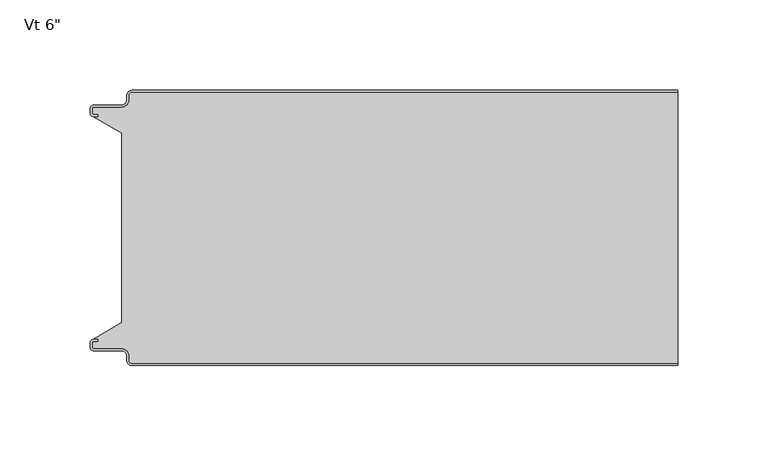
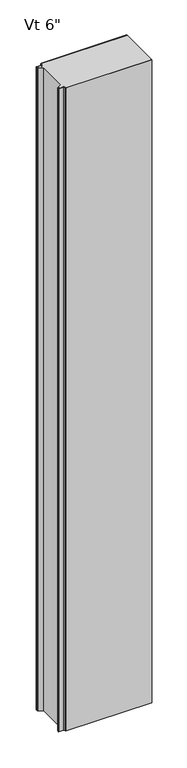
"""IFC4 building model written with IfcOpenShell, lengths in millimetres: plate geometry."""

import ifcopenshell
import ifcopenshell.guid

model = None  # the IFC model being written
_history = None  # IfcOwnerHistory: only IFC2X3 demands one
_inside = {}  # id of a spatial element -> (the spatial element, [elements in it])
_under = {}  # id of a project, library or spatial element -> (it, [spatial elements below it])
_declared = {}  # id of a project -> (the project, [libraries it declares])
_typed = {}  # id of a type object -> (the type object, [elements of that type])
_made_of = {}  # id of a material, layer set ... -> (it, [elements and type objects made of it])


def new_model(schema):
    """Start an empty IFC model of exactly this schema.

    Asked for "IFC4X3", IfcOpenShell would pick the latest addendum, in which some entities
    have other attributes; the version numbers below select the first issue.
    IFC2X3 requires an IfcOwnerHistory on every rooted entity: one is made here for all.
    """
    global model, _history
    if schema == "IFC4X3":
        model = ifcopenshell.file(schema_version=(4, 3, 0, 0))
    else:
        model = ifcopenshell.file(schema=schema)
    _inside.clear()
    _under.clear()
    _declared.clear()
    _typed.clear()
    _made_of.clear()
    _history = None
    if model.schema == "IFC2X3":
        org = make("IfcOrganization", Name="unknown")
        user = make(
            "IfcPersonAndOrganization",
            ThePerson=make("IfcPerson", FamilyName="unknown"),
            TheOrganization=org,
        )
        app = make(
            "IfcApplication",
            ApplicationDeveloper=org,
            Version="unknown",
            ApplicationFullName="unknown",
            ApplicationIdentifier="unknown",
        )
        _history = make(
            "IfcOwnerHistory",
            OwningUser=user,
            OwningApplication=app,
            ChangeAction="ADDED",
            CreationDate=0,
        )
    return model


def make(cls, **values):
    """One entity of the class cls with the attributes given. An attribute that is None is left unset."""
    return model.create_entity(
        cls, **{name: value for name, value in values.items() if value is not None}
    )


def rooted(cls, **values):
    """An entity with a GlobalId (a new one), such as an element, a storey or a relation."""
    return make(cls, GlobalId=ifcopenshell.guid.new(), OwnerHistory=_history, **values)


def si_unit(unit_type, name, prefix=None):
    """IfcSIUnit, for example si_unit("LENGTHUNIT", "METRE", prefix="MILLI")."""
    return make("IfcSIUnit", UnitType=unit_type, Prefix=prefix, Name=name)


def assignment(units):
    """IfcUnitAssignment: the units of a project."""
    return None if units is None else make("IfcUnitAssignment", Units=units)


def point(xyz):
    """IfcCartesianPoint."""
    return None if xyz is None else make("IfcCartesianPoint", Coordinates=xyz)


def direction(xyz):
    """IfcDirection."""
    return None if xyz is None else make("IfcDirection", DirectionRatios=xyz)


def frame(location, z_axis=None, x_axis=None):
    """IfcAxis2Placement3D, a coordinate frame: its origin and axes. An axis left out is left unset."""
    return make(
        "IfcAxis2Placement3D",
        Location=point(location),
        Axis=direction(z_axis),
        RefDirection=direction(x_axis),
    )


def origin():
    """The frame at (0, 0, 0) with its axes left unset."""
    return frame((0.0, 0.0, 0.0))


def place(relative_to, where):
    """IfcLocalPlacement: puts the frame where relative to a parent placement (None: the world)."""
    return make(
        "IfcLocalPlacement", PlacementRelTo=relative_to, RelativePlacement=where
    )


def context(
    kind, dimensions, precision=None, world=None, true_north=None, identifier=None
):
    """IfcGeometricRepresentationContext, for example the 3D "Model" context."""
    return make(
        "IfcGeometricRepresentationContext",
        ContextIdentifier=identifier,
        ContextType=kind,
        CoordinateSpaceDimension=dimensions,
        Precision=precision,
        WorldCoordinateSystem=world,
        TrueNorth=true_north,
    )


def project(units=None, contexts=None):
    """IfcProject with its units and contexts."""
    return rooted(
        "IfcProject",
        Name="project",
        RepresentationContexts=contexts,
        UnitsInContext=assignment(units),
    )


def spatial(cls, under=None, at=None, **own):
    """A site, building, storey or space (cls), placed at a placement, below another one or the project."""
    s = rooted(cls, ObjectPlacement=at, **own)
    if under is not None:
        _under.setdefault(under.id(), (under, []))[1].append(s)
    return s


def polyline(points):
    """IfcPolyline through the points."""
    return make("IfcPolyline", Points=[point(p) for p in points])


def circle_curve(where, radius):
    """IfcCircle in the frame where."""
    return make("IfcCircle", Position=where, Radius=radius)


def shape(context_of_items, identifier, shape_type, items):
    """IfcShapeRepresentation: the items that make up one representation, for example the "Body"."""
    return make(
        "IfcShapeRepresentation",
        ContextOfItems=context_of_items,
        RepresentationIdentifier=identifier,
        RepresentationType=shape_type,
        Items=items,
    )


def source(mapping_origin, context_of_items, identifier, shape_type, items):
    """IfcRepresentationMap: a shape defined once, which mapped items show again and again."""
    return make(
        "IfcRepresentationMap",
        MappingOrigin=mapping_origin,
        MappedRepresentation=shape(context_of_items, identifier, shape_type, items),
    )


def transform(
    local_origin,
    x_axis=None,
    y_axis=None,
    z_axis=None,
    scale=None,
    scale2=None,
    scale3=None,
    uniform=True,
):
    """IfcCartesianTransformationOperator3D, or its non-uniform kind. x_axis, y_axis, z_axis: its Axis1, 2, 3."""
    if uniform:
        return make(
            "IfcCartesianTransformationOperator3D",
            Axis1=direction(x_axis),
            Axis2=direction(y_axis),
            LocalOrigin=point(local_origin),
            Scale=scale,
            Axis3=direction(z_axis),
        )
    return make(
        "IfcCartesianTransformationOperator3DnonUniform",
        Axis1=direction(x_axis),
        Axis2=direction(y_axis),
        LocalOrigin=point(local_origin),
        Scale=scale,
        Axis3=direction(z_axis),
        Scale2=scale2,
        Scale3=scale3,
    )


def mapped(mapping_source, mapping_target):
    """IfcMappedItem: shows the shape of a source again, moved by a transform."""
    return make(
        "IfcMappedItem", MappingSource=mapping_source, MappingTarget=mapping_target
    )


def made_of(thing, what):
    """Note that an element or type object is made of a material, layer set ...; save() writes the relation."""
    if what is not None:
        _made_of.setdefault(what.id(), (what, []))[1].append(thing)
    return thing


def element(
    cls,
    number,
    at=None,
    inside=None,
    cuts=None,
    type_object=None,
    material=None,
    context=None,
    identifier="Body",
    shape_type=None,
    held_by="IfcProductDefinitionShape",
    body=None,
    shapes=None,
    **own,
):
    """One element of the class cls, such as IfcWall. Its Tag is "e" and its number.

    at: its placement. inside: the storey or other place that contains it. cuts: it is an
    opening in that element (IfcRelVoidsElement). A single representation is given by context,
    identifier, shape_type and body (its items); several are given by shapes. held_by: the class
    of the entity that holds the representations. save() writes the other relations.
    """
    e = rooted(cls, Tag="e%d" % number, ObjectPlacement=at, **own)
    if body is not None:
        shapes = [shape(context, identifier, shape_type, body)]
    if shapes is not None:
        e.Representation = make(held_by, Representations=shapes)
    if inside is not None:
        _inside.setdefault(inside.id(), (inside, []))[1].append(e)
    if cuts is not None:
        rooted(
            "IfcRelVoidsElement", RelatingBuildingElement=cuts, RelatedOpeningElement=e
        )
    if type_object is not None:
        _typed.setdefault(type_object.id(), (type_object, []))[1].append(e)
    return made_of(e, material)


def aggregate(whole, parts):
    """IfcRelAggregates: a whole, such as a stair, and the parts it consists of."""
    return rooted("IfcRelAggregates", RelatingObject=whole, RelatedObjects=parts)


def save(model, path):
    """Write the relations noted so far, then the file.

    IfcRelAggregates (storeys below a building ...), IfcRelContainedInSpatialStructure (elements
    in a storey), IfcRelDefinesByType, IfcRelAssociatesMaterial and IfcRelDeclares: one each for
    every whole, place, type object, material and project.
    """
    for whole, parts in _under.values():
        aggregate(whole, parts)
    for where, things in _inside.values():
        rooted(
            "IfcRelContainedInSpatialStructure",
            RelatedElements=things,
            RelatingStructure=where,
        )
    for kind, things in _typed.values():
        rooted("IfcRelDefinesByType", RelatedObjects=things, RelatingType=kind)
    for what, things in _made_of.values():
        rooted("IfcRelAssociatesMaterial", RelatedObjects=things, RelatingMaterial=what)
    for by, libraries in _declared.values():
        rooted("IfcRelDeclares", RelatingContext=by, RelatedDefinitions=libraries)
    model.write(path)


def plane_surface(at):
    """IfcPlane: the flat surface through the origin of the frame at, square to its z axis."""
    return make("IfcPlane", Position=at)


def cylinder_surface(at, radius):
    """IfcCylindricalSurface: all points at the distance radius from the z axis of the frame at."""
    return make("IfcCylindricalSurface", Position=at, Radius=radius)


def revolved_surface(curve, axis_point, axis_direction):
    """IfcSurfaceOfRevolution: the curve turned about the line through axis_point along axis_direction."""
    return make(
        "IfcSurfaceOfRevolution",
        SweptCurve=make("IfcArbitraryOpenProfileDef", ProfileType="CURVE", Curve=curve),
        AxisPosition=make("IfcAxis1Placement", Location=point(axis_point), Axis=direction(axis_direction)),
    )


def advanced_brep(points, edges, surfaces, faces):
    """IfcAdvancedBrep: a solid bounded by faces that lie on surfaces and meet in shared edges.

    An edge is (start, end): straight between two places in points (the first is 0);
    or (start, end, curve); or (start, end, curve, False) where it runs against its curve.
    A face is (place in surfaces, loops), or (place, loops, False) where it looks against
    its surface's normal. A loop lists edges by number (the first is 1), with a minus sign
    where the edge is run from its end to its start. The first loop is the outer one.
    """
    corners = [point(p) for p in points]
    vertices = [make("IfcVertexPoint", VertexGeometry=c) for c in corners]
    made = []
    for start, end, *more in edges:
        made.append(
            make(
                "IfcEdgeCurve",
                EdgeStart=vertices[start],
                EdgeEnd=vertices[end],
                EdgeGeometry=more[0] if more else make("IfcPolyline", Points=[corners[start], corners[end]]),
                SameSense=more[1] if len(more) > 1 else True,
            )
        )
    hull = []
    for where, loops, *sense in faces:
        bounds = []
        for j, loop in enumerate(loops):
            ring = [make("IfcOrientedEdge", EdgeElement=made[abs(k) - 1], Orientation=k > 0) for k in loop]
            bounds.append(
                make(
                    "IfcFaceOuterBound" if j == 0 else "IfcFaceBound",
                    Bound=make("IfcEdgeLoop", EdgeList=ring),
                    Orientation=True,
                )
            )
        hull.append(make("IfcAdvancedFace", Bounds=bounds, FaceSurface=surfaces[where], SameSense=sense[0] if sense else True))
    return make("IfcAdvancedBrep", Outer=make("IfcClosedShell", CfsFaces=hull))


def plate_ea97ee9e(model_context):
    return source(origin(), model_context, "Body", "AdvancedBrep", [
        advanced_brep(
        [(-149.8873936, -2.9776189, 2400.0), (-147.9104835, -1.0007088, 2400.0), (153.7374998, -1.0007088, 2400.0), (153.7374998, 0.0, 2400.0), (-147.9102787, 0.0, 2400.0), (-150.8875472, -2.977286, 2400.0), (-150.8875472, -5.2691698, 2400.0), (-153.8648158, -8.2464384, 2400.0), (-169.4612418, -8.2464384, 2400.0), (-171.0491183, -9.8343149, 2400.0), (-171.0491183, -12.9058636, 2400.0), (-169.4612418, -14.4937401, 2400.0), (-167.1062063, -14.4937401, 2400.0), (-167.1062063, -13.4937365, 2400.0), (-169.4612373, -13.4937365, 2400.0), (-170.0491084, -12.9058654, 2400.0), (-170.0491084, -9.834334, 2400.0), (-169.4612512, -9.2464768, 2400.0), (-153.864739, -9.2464768, 2400.0), (-149.8873936, -5.2691315, 2400.0), (-149.8873936, -2.9776189, 0.0), (-149.8873936, -5.2691315, 0.0), (-153.864739, -9.2464768, 0.0), (-169.4612512, -9.2464768, 0.0), (-170.0491084, -9.834334, 0.0), (-170.0491084, -12.9058654, 0.0), (-169.4612373, -13.4937365, 0.0), (-167.1062063, -13.4937365, 0.0), (-167.1062063, -14.4937401, 0.0), (-169.4612418, -14.4937401, 0.0), (-171.0491183, -12.9058636, 0.0), (-171.0491183, -9.8343149, 0.0), (-169.4612418, -8.2464384, 0.0), (-153.8648158, -8.2464384, 0.0), (-150.8875472, -5.2691698, 0.0), (-150.8875472, -2.977286, 0.0), (-147.9102787, -1.75e-05, 0.0), (153.7374998, 0.0, 0.0), (153.7374998, -1.0007088, 0.0), (-147.9104835, -1.0007088, 0.0)],
        [
            (0, 1, circle_curve(frame((-147.9104835, -2.9776189, 2400.0), z_axis=(0.0, 0.0, -1.0), x_axis=(0.0, 1.0, 0.0)), 1.9769101)),
            (1, 2),
            (2, 3),
            (3, 4),
            (4, 5, circle_curve(frame((-147.9102787, -2.977286, 2400.0), z_axis=(0.0, 0.0, 1.0), x_axis=(0.0, 1.0, 0.0)), 2.9772685)),
            (5, 6),
            (6, 7, circle_curve(frame((-153.8648158, -5.2691698, 2400.0), z_axis=(0.0, 0.0, -1.0), x_axis=(0.0, 1.0, 0.0)), 2.9772685)),
            (7, 8),
            (8, 9, circle_curve(frame((-169.4612418, -9.8343149, 2400.0), z_axis=(0.0, 0.0, 1.0), x_axis=(0.0, 1.0, 0.0)), 1.5878765)),
            (9, 10),
            (10, 11, circle_curve(frame((-169.4612418, -12.9058636, 2400.0), z_axis=(0.0, 0.0, 1.0), x_axis=(0.0, 1.0, 0.0)), 1.5878765)),
            (11, 12),
            (12, 13),
            (13, 14),
            (14, 15, circle_curve(frame((-169.4612373, -12.9058654, 2400.0), z_axis=(0.0, 0.0, -1.0), x_axis=(0.0, 1.0, 0.0)), 0.5878711)),
            (15, 16),
            (16, 17, circle_curve(frame((-169.4612512, -9.834334, 2400.0), z_axis=(0.0, 0.0, -1.0), x_axis=(0.0, 1.0, 0.0)), 0.5878572)),
            (17, 18),
            (18, 19, circle_curve(frame((-153.864739, -5.2691315, 2400.0), z_axis=(0.0, 0.0, 1.0), x_axis=(0.0, 1.0, 0.0)), 3.9773454)),
            (19, 0),
            (20, 21),
            (21, 22, circle_curve(frame((-153.864739, -5.2691315, 0.0), z_axis=(0.0, 0.0, -1.0), x_axis=(0.0, 1.0, 0.0)), 3.9773454)),
            (22, 23),
            (23, 24, circle_curve(frame((-169.4612512, -9.834334, 0.0), z_axis=(0.0, 0.0, 1.0), x_axis=(0.0, 1.0, 0.0)), 0.5878572)),
            (24, 25),
            (25, 26, circle_curve(frame((-169.4612373, -12.9058654, 0.0), z_axis=(0.0, 0.0, 1.0), x_axis=(0.0, 1.0, 0.0)), 0.5878711)),
            (26, 27),
            (27, 28),
            (28, 29),
            (29, 30, circle_curve(frame((-169.4612418, -12.9058636, 0.0), z_axis=(0.0, 0.0, -1.0), x_axis=(0.0, 1.0, 0.0)), 1.5878765)),
            (30, 31),
            (31, 32, circle_curve(frame((-169.4612418, -9.8343149, 0.0), z_axis=(0.0, 0.0, -1.0), x_axis=(0.0, 1.0, 0.0)), 1.5878765)),
            (32, 33),
            (33, 34, circle_curve(frame((-153.8648158, -5.2691698, 0.0), z_axis=(0.0, 0.0, 1.0), x_axis=(0.0, 1.0, 0.0)), 2.9772685)),
            (34, 35),
            (35, 36, circle_curve(frame((-147.9102787, -2.977286, 0.0), z_axis=(0.0, 0.0, -1.0), x_axis=(0.0, 1.0, 0.0)), 2.9772685)),
            (36, 37),
            (37, 38),
            (38, 39),
            (39, 20, circle_curve(frame((-147.9104835, -2.9776189, 0.0), z_axis=(0.0, 0.0, 1.0), x_axis=(0.0, 1.0, 0.0)), 1.9769101)),
            (2, 38),
            (37, 3),
            (19, 21),
            (20, 0),
            (18, 22),
            (17, 23),
            (16, 24),
            (15, 25),
            (14, 26),
            (13, 27),
            (12, 28),
            (11, 29),
            (10, 30),
            (9, 31),
            (8, 32),
            (7, 33),
            (6, 34),
            (5, 35),
            (4, 36),
            (1, 39),
        ],
        [
            plane_surface(frame((422.5250002, 0.0, 2400.0), z_axis=(0.0, 0.0, 1.0), x_axis=(0.0, 1.0, 0.0))),
            plane_surface(frame((422.5250002, 0.0, 0.0), z_axis=(0.0, 0.0, -1.0), x_axis=(0.0, 1.0, 0.0))),
            plane_surface(frame((153.7374998, -162.4, 2400.0), z_axis=(1.0, 0.0, 0.0), x_axis=(0.0, 0.0, -1.0))),
            plane_surface(frame((-149.8873936, -2.9776189, 2400.0), z_axis=(1.0, 0.0, 0.0), x_axis=(0.0, 0.0, -1.0))),
            cylinder_surface(frame((-153.864739, -5.2691315, 2400.0), z_axis=(0.0, 0.0, 1.0), x_axis=(0.0, 1.0, 0.0)), 3.9773454),
            plane_surface(frame((-153.864739, -9.2464768, 2400.0), z_axis=(0.0, -1.0, 0.0), x_axis=(0.0, 0.0, -1.0))),
            revolved_surface(polyline([(-169.4612512, -9.2464768, 0.0), (-169.4612512, -9.2464768, 2400.0)]), (-169.4612512, -9.834334, 2400.0), (0.0, 0.0, -1.0)),
            plane_surface(frame((-170.0491084, -9.834334, 2400.0), z_axis=(1.0, 0.0, 0.0), x_axis=(0.0, 0.0, -1.0))),
            revolved_surface(polyline([(-169.4612373, -12.3179943, 0.0), (-169.4612373, -12.3179943, 2400.0)]), (-169.4612373, -12.9058654, 2400.0), (0.0, 0.0, -1.0)),
            plane_surface(frame((-169.4612373, -13.4937365, 2400.0), z_axis=(0.0, 1.0, 0.0), x_axis=(0.0, 0.0, -1.0))),
            plane_surface(frame((-167.1062063, -13.4937365, 2400.0), z_axis=(1.0, 0.0, 0.0), x_axis=(0.0, 0.0, -1.0))),
            plane_surface(frame((-167.1062063, -14.4937401, 2400.0), z_axis=(0.0, -1.0, 0.0), x_axis=(0.0, 0.0, -1.0))),
            cylinder_surface(frame((-169.4612418, -12.9058636, 2400.0), z_axis=(0.0, 0.0, 1.0), x_axis=(0.0, 1.0, 0.0)), 1.5878765),
            plane_surface(frame((-171.0491183, -12.9058636, 2400.0), z_axis=(-1.0, 0.0, 0.0), x_axis=(0.0, 0.0, -1.0))),
            cylinder_surface(frame((-169.4612418, -9.8343149, 2400.0), z_axis=(0.0, 0.0, 1.0), x_axis=(0.0, 1.0, 0.0)), 1.5878765),
            plane_surface(frame((-169.4612418, -8.2464384, 2400.0), z_axis=(0.0, 1.0, 0.0), x_axis=(0.0, 0.0, -1.0))),
            revolved_surface(polyline([(-153.8648158, -2.2919013, 0.0), (-153.8648158, -2.2919013, 2400.0)]), (-153.8648158, -5.2691698, 2400.0), (0.0, 0.0, -1.0)),
            plane_surface(frame((-150.8875472, -5.2691698, 2400.0), z_axis=(-1.0, 0.0, 0.0), x_axis=(0.0, 0.0, -1.0))),
            cylinder_surface(frame((-147.9102787, -2.977286, 2400.0), z_axis=(0.0, 0.0, 1.0), x_axis=(0.0, 1.0, 0.0)), 2.9772685),
            plane_surface(frame((-147.9102787, 0.0, 2400.0), z_axis=(0.0, 1.0, 0.0), x_axis=(0.0, 0.0, -1.0))),
            plane_surface(frame((997.0753372, -1.0007088, 2400.0), z_axis=(0.0, -1.0, 0.0), x_axis=(0.0, 0.0, -1.0))),
            revolved_surface(polyline([(-147.9104835, -1.0007088, 0.0), (-147.9104835, -1.0007088, 2400.0)]), (-147.9104835, -2.9776189, 2400.0), (0.0, 0.0, -1.0)),
        ],
        [
            (0, [[1, 2, 3, 4, 5, 6, 7, 8, 9, 10, 11, 12, 13, 14, 15, 16, 17, 18, 19, 20]]),
            (1, [[21, 22, 23, 24, 25, 26, 27, 28, 29, 30, 31, 32, 33, 34, 35, 36, 37, 38, 39, 40]]),
            (2, [[41, -38, 42, -3]]),
            (3, [[43, -21, 44, -20]]),
            (4, [[45, -22, -43, -19]]),
            (5, [[46, -23, -45, -18]]),
            (6, [[47, -24, -46, -17]]),
            (7, [[48, -25, -47, -16]]),
            (8, [[49, -26, -48, -15]]),
            (9, [[50, -27, -49, -14]]),
            (10, [[51, -28, -50, -13]]),
            (11, [[52, -29, -51, -12]]),
            (12, [[53, -30, -52, -11]]),
            (13, [[54, -31, -53, -10]]),
            (14, [[55, -32, -54, -9]]),
            (15, [[56, -33, -55, -8]]),
            (16, [[57, -34, -56, -7]]),
            (17, [[58, -35, -57, -6]]),
            (18, [[59, -36, -58, -5]]),
            (19, [[-4, -42, -37, -59]]),
            (20, [[-39, -41, -2, 60]]),
            (21, [[-44, -40, -60, -1]]),
        ],
    ),
        advanced_brep(
        [(-149.8873936, -149.4223811, 2400.0), (-149.8873936, -147.1308685, 2400.0), (-153.864739, -143.1535232, 2400.0), (-169.4612512, -143.1535232, 2400.0), (-170.0491084, -142.565666, 2400.0), (-170.0491084, -139.4941346, 2400.0), (-169.4612373, -138.9062635, 2400.0), (-167.1062063, -138.9062635, 2400.0), (-167.1062063, -137.9062599, 2400.0), (-169.4612418, -137.9062599, 2400.0), (-171.0491183, -139.4941364, 2400.0), (-171.0491183, -142.5656851, 2400.0), (-169.4612418, -144.1535616, 2400.0), (-153.8648158, -144.1535616, 2400.0), (-150.8875472, -147.1308302, 2400.0), (-150.8875472, -149.422714, 2400.0), (-147.9102787, -152.3999825, 2400.0), (153.7374998, -152.4, 2400.0), (153.7374998, -151.3992912, 2400.0), (-147.9104835, -151.3992912, 2400.0), (-149.8873936, -149.4223811, 0.0), (-147.9104835, -151.3992912, 0.0), (153.7374998, -151.3992912, 0.0), (153.7374998, -152.4, 0.0), (-147.9102787, -152.4, 0.0), (-150.8875472, -149.422714, 0.0), (-150.8875472, -147.1308302, 0.0), (-153.8648158, -144.1535616, 0.0), (-169.4612418, -144.1535616, 0.0), (-171.0491183, -142.5656851, 0.0), (-171.0491183, -139.4941364, 0.0), (-169.4612418, -137.9062599, 0.0), (-167.1062063, -137.9062599, 0.0), (-167.1062063, -138.9062635, 0.0), (-169.4612373, -138.9062635, 0.0), (-170.0491084, -139.4941346, 0.0), (-170.0491084, -142.565666, 0.0), (-169.4612512, -143.1535232, 0.0), (-153.864739, -143.1535232, 0.0), (-149.8873936, -147.1308685, 0.0)],
        [
            (0, 1),
            (1, 2, circle_curve(frame((-153.864739, -147.1308685, 2400.0), z_axis=(0.0, 0.0, 1.0), x_axis=(-1.0, 0.0, 0.0)), 3.9773454)),
            (2, 3),
            (3, 4, circle_curve(frame((-169.4612512, -142.565666, 2400.0), z_axis=(0.0, 0.0, -1.0), x_axis=(-1.0, 0.0, 0.0)), 0.5878572)),
            (4, 5),
            (5, 6, circle_curve(frame((-169.4612373, -139.4941346, 2400.0), z_axis=(0.0, 0.0, -1.0), x_axis=(-1.0, 0.0, 0.0)), 0.5878711)),
            (6, 7),
            (7, 8),
            (8, 9),
            (9, 10, circle_curve(frame((-169.4612418, -139.4941364, 2400.0), z_axis=(0.0, 0.0, 1.0), x_axis=(-1.0, 0.0, 0.0)), 1.5878765)),
            (10, 11),
            (11, 12, circle_curve(frame((-169.4612418, -142.5656851, 2400.0), z_axis=(0.0, 0.0, 1.0), x_axis=(-1.0, 0.0, 0.0)), 1.5878765)),
            (12, 13),
            (13, 14, circle_curve(frame((-153.8648158, -147.1308302, 2400.0), z_axis=(0.0, 0.0, -1.0), x_axis=(-1.0, 0.0, 0.0)), 2.9772685)),
            (14, 15),
            (15, 16, circle_curve(frame((-147.9102787, -149.422714, 2400.0), z_axis=(0.0, 0.0, 1.0), x_axis=(-1.0, 0.0, 0.0)), 2.9772685)),
            (16, 17),
            (17, 18),
            (18, 19),
            (19, 0, circle_curve(frame((-147.9104835, -149.4223811, 2400.0), z_axis=(0.0, 0.0, -1.0), x_axis=(-1.0, 0.0, 0.0)), 1.9769101)),
            (20, 21, circle_curve(frame((-147.9104835, -149.4223811, 0.0), z_axis=(0.0, 0.0, 1.0), x_axis=(-1.0, 0.0, 0.0)), 1.9769101)),
            (21, 22),
            (22, 23),
            (23, 24),
            (24, 25, circle_curve(frame((-147.9102787, -149.422714, 0.0), z_axis=(0.0, 0.0, -1.0), x_axis=(-1.0, 0.0, 0.0)), 2.9772685)),
            (25, 26),
            (26, 27, circle_curve(frame((-153.8648158, -147.1308302, 0.0), z_axis=(0.0, 0.0, 1.0), x_axis=(-1.0, 0.0, 0.0)), 2.9772685)),
            (27, 28),
            (28, 29, circle_curve(frame((-169.4612418, -142.5656851, 0.0), z_axis=(0.0, 0.0, -1.0), x_axis=(-1.0, 0.0, 0.0)), 1.5878765)),
            (29, 30),
            (30, 31, circle_curve(frame((-169.4612418, -139.4941364, 0.0), z_axis=(0.0, 0.0, -1.0), x_axis=(-1.0, 0.0, 0.0)), 1.5878765)),
            (31, 32),
            (32, 33),
            (33, 34),
            (34, 35, circle_curve(frame((-169.4612373, -139.4941346, 0.0), z_axis=(0.0, 0.0, 1.0), x_axis=(-1.0, 0.0, 0.0)), 0.5878711)),
            (35, 36),
            (36, 37, circle_curve(frame((-169.4612512, -142.565666, 0.0), z_axis=(0.0, 0.0, 1.0), x_axis=(-1.0, 0.0, 0.0)), 0.5878572)),
            (37, 38),
            (38, 39, circle_curve(frame((-153.864739, -147.1308685, 0.0), z_axis=(0.0, 0.0, -1.0), x_axis=(-1.0, 0.0, 0.0)), 3.9773454)),
            (39, 20),
            (17, 23),
            (22, 18),
            (16, 24),
            (21, 19),
            (20, 0),
            (39, 1),
            (38, 2),
            (37, 3),
            (4, 36),
            (35, 5),
            (34, 6),
            (33, 7),
            (32, 8),
            (31, 9),
            (30, 10),
            (29, 11),
            (28, 12),
            (27, 13),
            (26, 14),
            (25, 15),
        ],
        [
            plane_surface(frame((422.5250002, -152.4, 2400.0), z_axis=(0.0, 0.0, 1.0), x_axis=(0.0, -1.0, 0.0))),
            plane_surface(frame((422.5250002, -152.4, 0.0), z_axis=(0.0, 0.0, -1.0), x_axis=(0.0, -1.0, 0.0))),
            plane_surface(frame((153.7374998, -162.4, 2400.0), z_axis=(1.0, 0.0, 0.0), x_axis=(0.0, 0.0, -1.0))),
            plane_surface(frame((997.0725653, -152.4, 2400.0), z_axis=(0.0, -1.0, 0.0), x_axis=(0.0, 0.0, -1.0))),
            plane_surface(frame((-147.9104835, -151.3992912, 2400.0), z_axis=(0.0, 1.0, 0.0), x_axis=(0.0, 0.0, -1.0))),
            revolved_surface(polyline([(-149.8873936, -149.4223811, 0.0), (-149.8873936, -149.4223811, 2400.0)]), (-147.9104835, -149.4223811, 2400.0), (0.0, 0.0, -1.0)),
            plane_surface(frame((-149.8873936, -147.1308685, 2400.0), z_axis=(1.0, 0.0, 0.0), x_axis=(0.0, 0.0, -1.0))),
            cylinder_surface(frame((-153.864739, -147.1308685, 2400.0), z_axis=(0.0, 0.0, 1.0), x_axis=(-1.0, 0.0, 0.0)), 3.9773454),
            plane_surface(frame((-169.4612512, -143.1535232, 2400.0), z_axis=(0.0, 1.0, 0.0), x_axis=(0.0, 0.0, -1.0))),
            plane_surface(frame((-170.0491084, -139.4941346, 2400.0), z_axis=(1.0, 0.0, 0.0), x_axis=(0.0, 0.0, -1.0))),
            revolved_surface(polyline([(-170.0491084, -139.4941346, 0.0), (-170.0491084, -139.4941346, 2400.0)]), (-169.4612373, -139.4941346, 2400.0), (0.0, 0.0, -1.0)),
            plane_surface(frame((-167.1062063, -138.9062635, 2400.0), z_axis=(0.0, -1.0, 0.0), x_axis=(0.0, 0.0, -1.0))),
            plane_surface(frame((-167.1062063, -137.9062599, 2400.0), z_axis=(1.0, 0.0, 0.0), x_axis=(0.0, 0.0, -1.0))),
            plane_surface(frame((-169.4612418, -137.9062599, 2400.0), z_axis=(0.0, 1.0, 0.0), x_axis=(0.0, 0.0, -1.0))),
            cylinder_surface(frame((-169.4612418, -139.4941364, 2400.0), z_axis=(0.0, 0.0, 1.0), x_axis=(-1.0, 0.0, 0.0)), 1.5878765),
            plane_surface(frame((-171.0491183, -142.5656851, 2400.0), z_axis=(-1.0, 0.0, 0.0), x_axis=(0.0, 0.0, -1.0))),
            cylinder_surface(frame((-169.4612418, -142.5656851, 2400.0), z_axis=(0.0, 0.0, 1.0), x_axis=(-1.0, 0.0, 0.0)), 1.5878765),
            plane_surface(frame((-153.8648158, -144.1535616, 2400.0), z_axis=(0.0, -1.0, 0.0), x_axis=(0.0, 0.0, -1.0))),
            revolved_surface(polyline([(-156.8420843, -147.1308302, 0.0), (-156.8420843, -147.1308302, 2400.0)]), (-153.8648158, -147.1308302, 2400.0), (0.0, 0.0, -1.0)),
            plane_surface(frame((-150.8875472, -149.422714, 2400.0), z_axis=(-1.0, 0.0, 0.0), x_axis=(0.0, 0.0, -1.0))),
            cylinder_surface(frame((-147.9102787, -149.422714, 2400.0), z_axis=(0.0, 0.0, 1.0), x_axis=(-1.0, 0.0, 0.0)), 2.9772685),
            revolved_surface(polyline([(-170.0491084, -142.565666, 0.0), (-170.0491084, -142.565666, 2400.0)]), (-169.4612512, -142.565666, 2400.0), (0.0, 0.0, -1.0)),
        ],
        [
            (0, [[1, 2, 3, 4, 5, 6, 7, 8, 9, 10, 11, 12, 13, 14, 15, 16, 17, 18, 19, 20]]),
            (1, [[21, 22, 23, 24, 25, 26, 27, 28, 29, 30, 31, 32, 33, 34, 35, 36, 37, 38, 39, 40]]),
            (2, [[41, -23, 42, -18]]),
            (3, [[-24, -41, -17, 43]]),
            (4, [[-19, -42, -22, 44]]),
            (5, [[-44, -21, 45, -20]]),
            (6, [[-45, -40, 46, -1]]),
            (7, [[-46, -39, 47, -2]]),
            (8, [[-47, -38, 48, -3]]),
            (9, [[49, -36, 50, -5]]),
            (10, [[-50, -35, 51, -6]]),
            (11, [[-51, -34, 52, -7]]),
            (12, [[-52, -33, 53, -8]]),
            (13, [[-53, -32, 54, -9]]),
            (14, [[-54, -31, 55, -10]]),
            (15, [[-55, -30, 56, -11]]),
            (16, [[-56, -29, 57, -12]]),
            (17, [[-57, -28, 58, -13]]),
            (18, [[-58, -27, 59, -14]]),
            (19, [[-59, -26, 60, -15]]),
            (20, [[-60, -25, -43, -16]]),
            (21, [[-48, -37, -49, -4]]),
        ],
    ),
        advanced_brep(
        [(-149.88755, -149.4227194, 2400.0), (-147.910276, -151.3999935, 2400.0), (153.7374998, -151.4, 2400.0), (153.7374998, -1.0, 2400.0), (-147.910276, -1.0, 2400.0), (-149.88755, -2.9772806, 2400.0), (-149.88755, -5.2691705, 2400.0), (-153.8648171, -9.2464377, 2400.0), (-169.4612416, -9.2464377, 2400.0), (-170.0491185, -9.8343146, 2400.0), (-170.0491185, -12.9058635, 2400.0), (-169.4612418, -13.4937402, 2400.0), (-167.1062063, -13.4937402, 2400.0), (-167.1062063, -14.4937402, 2400.0), (-169.395785, -14.4937402, 2400.0), (-153.7374998, -23.7509135, 2400.0), (-153.7374998, -128.6490865, 2400.0), (-169.395785, -137.9062598, 2400.0), (-167.1062063, -137.9062598, 2400.0), (-167.1062063, -138.9062598, 2400.0), (-169.4612418, -138.9062598, 2400.0), (-170.0491185, -139.4941365, 2400.0), (-170.0491185, -142.5656854, 2400.0), (-169.4612416, -143.1535623, 2400.0), (-153.8648171, -143.1535623, 2400.0), (-149.88755, -147.1308295, 2400.0), (-149.88755, -149.4227194, 0.0), (-149.88755, -147.1308295, 0.0), (-153.8648171, -143.1535623, 0.0), (-169.4612416, -143.1535623, 0.0), (-170.0491185, -142.5656854, 0.0), (-170.0491185, -139.4941365, 0.0), (-169.4612418, -138.9062598, 0.0), (-167.1062063, -138.9062598, 0.0), (-167.1062063, -137.9062598, 0.0), (-169.395785, -137.9062598, 0.0), (-153.7374998, -128.6490865, 0.0), (-153.7374998, -23.7509179, 0.0), (-169.395785, -14.4937402, 0.0), (-167.1062063, -14.4937402, 0.0), (-167.1062063, -13.4937402, 0.0), (-169.4612418, -13.4937402, 0.0), (-170.0491185, -12.9058635, 0.0), (-170.0491185, -9.8343146, 0.0), (-169.4612416, -9.2464377, 0.0), (-153.8648171, -9.2464377, 0.0), (-149.88755, -5.2691705, 0.0), (-149.88755, -2.9772806, 0.0), (-147.910276, -1.0000065, 0.0), (153.7374998, -1.0, 0.0), (153.7374998, -151.4, 0.0), (-147.910276, -151.4, 0.0)],
        [
            (0, 1, circle_curve(frame((-147.910276, -149.4227194, 2400.0), z_axis=(0.0, 0.0, 1.0), x_axis=(-1.0, 0.0, 0.0)), 1.977274)),
            (1, 2),
            (2, 3),
            (3, 4),
            (4, 5, circle_curve(frame((-147.910276, -2.9772806, 2400.0), z_axis=(0.0, 0.0, 1.0), x_axis=(0.0, 1.0, 0.0)), 1.977274)),
            (5, 6),
            (6, 7, circle_curve(frame((-153.8648171, -5.2691705, 2400.0), z_axis=(0.0, 0.0, -1.0), x_axis=(0.0, 1.0, 0.0)), 3.9772671)),
            (7, 8),
            (8, 9, circle_curve(frame((-169.4612416, -9.8343146, 2400.0), z_axis=(0.0, 0.0, 1.0), x_axis=(0.0, 1.0, 0.0)), 0.5878769)),
            (9, 10),
            (10, 11, circle_curve(frame((-169.4612418, -12.9058635, 2400.0), z_axis=(0.0, 0.0, 1.0), x_axis=(0.0, 1.0, 0.0)), 0.5878766)),
            (11, 12),
            (12, 13),
            (13, 14),
            (14, 15),
            (15, 16),
            (16, 17),
            (17, 18),
            (18, 19),
            (19, 20),
            (20, 21, circle_curve(frame((-169.4612418, -139.4941365, 2400.0), z_axis=(0.0, 0.0, 1.0), x_axis=(-1.0, 0.0, 0.0)), 0.5878766)),
            (21, 22),
            (22, 23, circle_curve(frame((-169.4612416, -142.5656854, 2400.0), z_axis=(0.0, 0.0, 1.0), x_axis=(-1.0, 0.0, 0.0)), 0.5878769)),
            (23, 24),
            (24, 25, circle_curve(frame((-153.8648171, -147.1308295, 2400.0), z_axis=(0.0, 0.0, -1.0), x_axis=(-1.0, 0.0, 0.0)), 3.9772671)),
            (25, 0),
            (26, 27),
            (27, 28, circle_curve(frame((-153.8648171, -147.1308295, 0.0), z_axis=(0.0, 0.0, 1.0), x_axis=(-1.0, 0.0, 0.0)), 3.9772671)),
            (28, 29),
            (29, 30, circle_curve(frame((-169.4612416, -142.5656854, 0.0), z_axis=(0.0, 0.0, -1.0), x_axis=(-1.0, 0.0, 0.0)), 0.5878769)),
            (30, 31),
            (31, 32, circle_curve(frame((-169.4612418, -139.4941365, 0.0), z_axis=(0.0, 0.0, -1.0), x_axis=(-1.0, 0.0, 0.0)), 0.5878766)),
            (32, 33),
            (33, 34),
            (34, 35),
            (35, 36),
            (36, 37),
            (37, 38),
            (38, 39),
            (39, 40),
            (40, 41),
            (41, 42, circle_curve(frame((-169.4612418, -12.9058635, 0.0), z_axis=(0.0, 0.0, -1.0), x_axis=(0.0, 1.0, 0.0)), 0.5878766)),
            (42, 43),
            (43, 44, circle_curve(frame((-169.4612416, -9.8343146, 0.0), z_axis=(0.0, 0.0, -1.0), x_axis=(0.0, 1.0, 0.0)), 0.5878769)),
            (44, 45),
            (45, 46, circle_curve(frame((-153.8648171, -5.2691705, 0.0), z_axis=(0.0, 0.0, 1.0), x_axis=(0.0, 1.0, 0.0)), 3.9772671)),
            (46, 47),
            (47, 48, circle_curve(frame((-147.910276, -2.9772806, 0.0), z_axis=(0.0, 0.0, -1.0), x_axis=(0.0, 1.0, 0.0)), 1.977274)),
            (48, 49),
            (49, 50),
            (50, 51),
            (51, 26, circle_curve(frame((-147.910276, -149.4227194, 0.0), z_axis=(0.0, 0.0, -1.0), x_axis=(-1.0, 0.0, 0.0)), 1.977274)),
            (15, 37),
            (36, 16),
            (2, 50),
            (49, 3),
            (25, 27),
            (26, 0),
            (24, 28),
            (23, 29),
            (22, 30),
            (21, 31),
            (20, 32),
            (19, 33),
            (18, 34),
            (17, 35),
            (1, 51),
            (4, 48),
            (47, 5),
            (14, 38),
            (13, 39),
            (12, 40),
            (11, 41),
            (10, 42),
            (9, 43),
            (8, 44),
            (7, 45),
            (6, 46),
        ],
        [
            plane_surface(frame((422.5250002, -151.4, 2400.0), z_axis=(0.0, 0.0, 1.0), x_axis=(0.0, -1.0, 0.0))),
            plane_surface(frame((422.5250002, -151.4, 0.0), z_axis=(0.0, 0.0, -1.0), x_axis=(0.0, -1.0, 0.0))),
            plane_surface(frame((-153.7374998, -128.6490865, 2400.0), z_axis=(-1.0, 0.0, 0.0), x_axis=(0.0, 0.0, -1.0))),
            plane_surface(frame((153.7374998, -162.4, 2400.0), z_axis=(1.0, 0.0, 0.0), x_axis=(0.0, 0.0, -1.0))),
            plane_surface(frame((-149.88755, -149.4227194, 2400.0), z_axis=(-1.0, 0.0, 0.0), x_axis=(0.0, 0.0, -1.0))),
            revolved_surface(polyline([(-157.84208420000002, -147.1308295, 0.0), (-157.84208420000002, -147.1308295, 2400.0)]), (-153.8648171, -147.1308295, 2400.0), (0.0, 0.0, -1.0)),
            plane_surface(frame((-153.8648171, -143.1535623, 2400.0), z_axis=(0.0, -1.0, 0.0), x_axis=(0.0, 0.0, -1.0))),
            cylinder_surface(frame((-169.4612416, -142.5656854, 2400.0), z_axis=(0.0, 0.0, 1.0), x_axis=(-1.0, 0.0, 0.0)), 0.5878769),
            plane_surface(frame((-170.0491185, -142.5656854, 2400.0), z_axis=(-1.0, 0.0, 0.0), x_axis=(0.0, 0.0, -1.0))),
            cylinder_surface(frame((-169.4612418, -139.4941365, 2400.0), z_axis=(0.0, 0.0, 1.0), x_axis=(-1.0, 0.0, 0.0)), 0.5878766),
            plane_surface(frame((-169.4612418, -138.9062598, 2400.0), z_axis=(0.0, 1.0, 0.0), x_axis=(0.0, 0.0, -1.0))),
            plane_surface(frame((-167.1062063, -138.9062598, 2400.0), z_axis=(-1.0, 0.0, 0.0), x_axis=(0.0, 0.0, -1.0))),
            plane_surface(frame((-167.1062063, -137.9062598, 2400.0), z_axis=(0.0, -1.0, 0.0), x_axis=(0.0, 0.0, -1.0))),
            plane_surface(frame((-169.395785, -137.9062598, 2400.0), z_axis=(-0.5089147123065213, 0.860816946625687, 0.0), x_axis=(0.0, 0.0, -1.0))),
            plane_surface(frame((997.0725653, -151.4, 2400.0), z_axis=(0.0, -1.0, 0.0), x_axis=(0.0, 0.0, -1.0))),
            cylinder_surface(frame((-147.910276, -149.4227194, 2400.0), z_axis=(0.0, 0.0, 1.0), x_axis=(-1.0, 0.0, 0.0)), 1.977274),
            cylinder_surface(frame((-147.910276, -2.9772806, 2400.0), z_axis=(0.0, 0.0, 1.0), x_axis=(0.0, 1.0, 0.0)), 1.977274),
            plane_surface(frame((-147.910276, -1.0, 2400.0), z_axis=(0.0, 1.0, 0.0), x_axis=(0.0, 0.0, -1.0))),
            plane_surface(frame((-153.7374998, -23.7509135, 2400.0), z_axis=(-0.5089147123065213, -0.860816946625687, 0.0), x_axis=(0.0, 0.0, -1.0))),
            plane_surface(frame((-169.395785, -14.4937402, 2400.0), z_axis=(0.0, 1.0, 0.0), x_axis=(0.0, 0.0, -1.0))),
            plane_surface(frame((-167.1062063, -14.4937402, 2400.0), z_axis=(-1.0, 0.0, 0.0), x_axis=(0.0, 0.0, -1.0))),
            plane_surface(frame((-167.1062063, -13.4937402, 2400.0), z_axis=(0.0, -1.0, 0.0), x_axis=(0.0, 0.0, -1.0))),
            cylinder_surface(frame((-169.4612418, -12.9058635, 2400.0), z_axis=(0.0, 0.0, 1.0), x_axis=(0.0, 1.0, 0.0)), 0.5878766),
            plane_surface(frame((-170.0491185, -12.9058635, 2400.0), z_axis=(-1.0, 0.0, 0.0), x_axis=(0.0, 0.0, -1.0))),
            cylinder_surface(frame((-169.4612416, -9.8343146, 2400.0), z_axis=(0.0, 0.0, 1.0), x_axis=(0.0, 1.0, 0.0)), 0.5878769),
            plane_surface(frame((-169.4612416, -9.2464377, 2400.0), z_axis=(0.0, 1.0, 0.0), x_axis=(0.0, 0.0, -1.0))),
            revolved_surface(polyline([(-153.8648171, -1.2919034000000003, 0.0), (-153.8648171, -1.2919034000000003, 2400.0)]), (-153.8648171, -5.2691705, 2400.0), (0.0, 0.0, -1.0)),
            plane_surface(frame((-149.88755, -5.2691705, 2400.0), z_axis=(-1.0, 0.0, 0.0), x_axis=(0.0, 0.0, -1.0))),
        ],
        [
            (0, [[1, 2, 3, 4, 5, 6, 7, 8, 9, 10, 11, 12, 13, 14, 15, 16, 17, 18, 19, 20, 21, 22, 23, 24, 25, 26]]),
            (1, [[27, 28, 29, 30, 31, 32, 33, 34, 35, 36, 37, 38, 39, 40, 41, 42, 43, 44, 45, 46, 47, 48, 49, 50, 51, 52]]),
            (2, [[53, -37, 54, -16]]),
            (3, [[55, -50, 56, -3]]),
            (4, [[57, -27, 58, -26]]),
            (5, [[59, -28, -57, -25]]),
            (6, [[60, -29, -59, -24]]),
            (7, [[61, -30, -60, -23]]),
            (8, [[62, -31, -61, -22]]),
            (9, [[63, -32, -62, -21]]),
            (10, [[64, -33, -63, -20]]),
            (11, [[65, -34, -64, -19]]),
            (12, [[66, -35, -65, -18]]),
            (13, [[-54, -36, -66, -17]]),
            (14, [[-51, -55, -2, 67]]),
            (15, [[-58, -52, -67, -1]]),
            (16, [[68, -48, 69, -5]]),
            (17, [[-4, -56, -49, -68]]),
            (18, [[70, -38, -53, -15]]),
            (19, [[71, -39, -70, -14]]),
            (20, [[72, -40, -71, -13]]),
            (21, [[73, -41, -72, -12]]),
            (22, [[74, -42, -73, -11]]),
            (23, [[75, -43, -74, -10]]),
            (24, [[76, -44, -75, -9]]),
            (25, [[77, -45, -76, -8]]),
            (26, [[78, -46, -77, -7]]),
            (27, [[-69, -47, -78, -6]]),
        ],
    ),
    ])


if __name__ == "__main__":
    model = new_model("IFC4")
    model_context = context("Model", 3, world=origin())
    ifc_project = project(units=[si_unit("LENGTHUNIT", "METRE", prefix="MILLI")], contexts=[model_context])
    site = spatial("IfcSite", under=ifc_project)
    building = spatial("IfcBuilding", under=site)
    placement = place(None, origin())
    plate_shape = plate_ea97ee9e(model_context)
    element("IfcPlate", 1, ObjectType="KIP-SLI-FLI-R19-CP-Vt-FL_FL : Vt 6\"", at=placement, inside=building, context=model_context, shape_type="MappedRepresentation", body=[
        mapped(plate_shape, transform((0.0, 0.0, 0.0), x_axis=(1.0, 0.0, 0.0), y_axis=(0.0, 1.0, 0.0), z_axis=(0.0, 0.0, 1.0))),
    ])
    save(model, "model.ifc")
